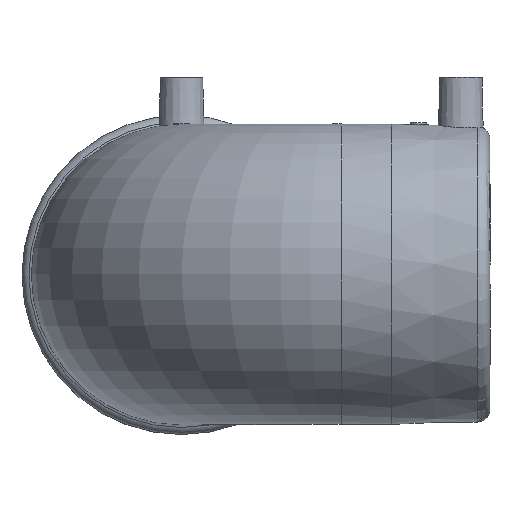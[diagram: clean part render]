
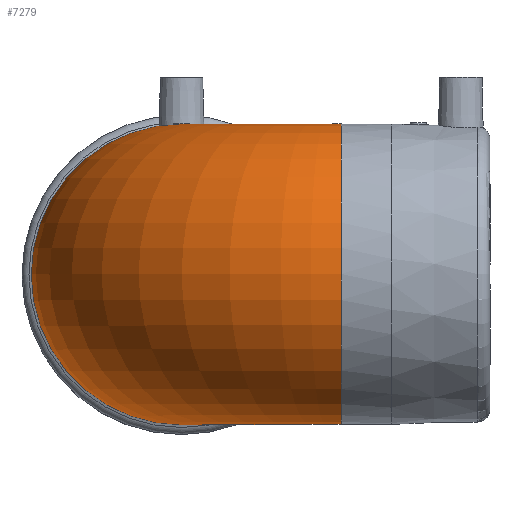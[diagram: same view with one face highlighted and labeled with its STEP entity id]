
A CAD part, top view. The second image highlights one B-rep face of the part: STEP entity #7279.
In plain terms, the highlighted toroidal (fillet/blend) face has major radius 60 mm and minor radius 56.5 mm.
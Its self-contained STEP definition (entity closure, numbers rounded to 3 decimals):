
#956=TOROIDAL_SURFACE('',#9453,60.,56.5);
#1000=CIRCLE('',#9445,56.5);
#1002=CIRCLE('',#9449,56.5);
#1406=ORIENTED_EDGE('',*,*,#3749,.F.);
#1407=ORIENTED_EDGE('',*,*,#3751,.T.);
#3749=EDGE_CURVE('',#4925,#4925,#1000,.F.);
#3751=EDGE_CURVE('',#4927,#4927,#1002,.F.);
#4925=VERTEX_POINT('',#12314);
#4927=VERTEX_POINT('',#12320);
#6104=EDGE_LOOP('',(#1406));
#6105=EDGE_LOOP('',(#1407));
#6677=FACE_BOUND('',#6104,.T.);
#6678=FACE_BOUND('',#6105,.T.);
#7279=ADVANCED_FACE('',(#6677,#6678),#956,.T.);
#9445=AXIS2_PLACEMENT_3D('',#12313,#10348,#10349);
#9449=AXIS2_PLACEMENT_3D('',#12319,#10356,#10357);
#9453=AXIS2_PLACEMENT_3D('',#12339,#10364,#10365);
#10348=DIRECTION('',(-1.,0.,0.));
#10349=DIRECTION('',(0.,0.,-1.));
#10356=DIRECTION('',(0.,0.,-1.));
#10357=DIRECTION('',(1.,0.,0.));
#10364=DIRECTION('',(0.,1.,0.));
#10365=DIRECTION('',(0.,0.,1.));
#12313=CARTESIAN_POINT('',(60.,0.,116.));
#12314=CARTESIAN_POINT('',(60.,0.,59.5));
#12319=CARTESIAN_POINT('',(0.,0.,56.));
#12320=CARTESIAN_POINT('',(56.5,0.,56.));
#12339=CARTESIAN_POINT('',(60.,0.,56.));
